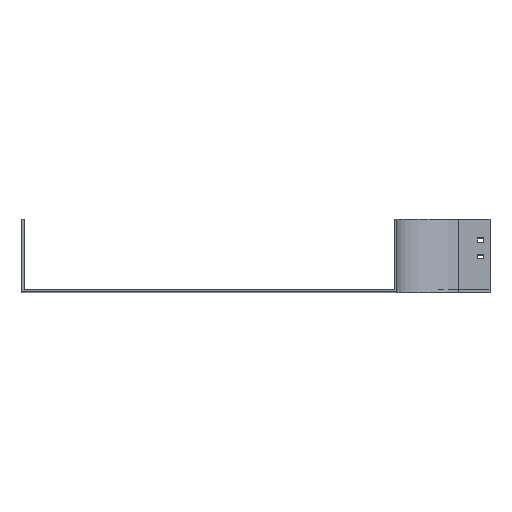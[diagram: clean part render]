
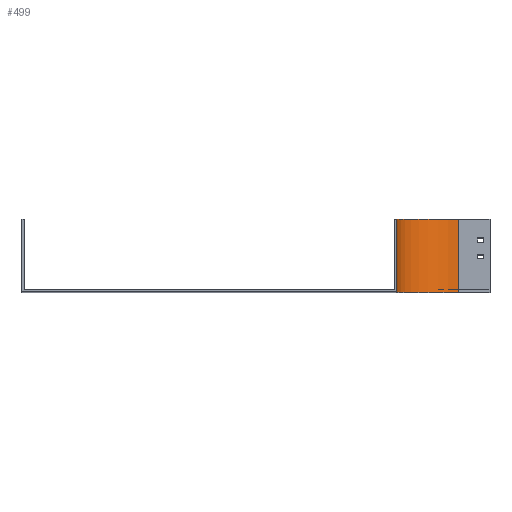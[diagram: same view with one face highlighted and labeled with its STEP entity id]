
A CAD part, top view. The second image highlights one B-rep face of the part: STEP entity #499.
In plain terms, the highlighted cylindrical face has radius 100 mm (diameter 200 mm), a partial arc.
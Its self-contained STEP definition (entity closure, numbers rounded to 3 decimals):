
#115 = CARTESIAN_POINT ( 'NONE',  ( 0., 117.5, 0. ) ) ;
#208 = DIRECTION ( 'NONE',  ( 0., 0., -1. ) ) ;
#313 = EDGE_LOOP ( 'NONE', ( #2393, #398, #786, #2388 ) ) ;
#373 = AXIS2_PLACEMENT_3D ( 'NONE', #547, #2650, #1606 ) ;
#398 = ORIENTED_EDGE ( 'NONE', *, *, #1973, .F. ) ;
#466 = EDGE_CURVE ( 'NONE', #1142, #1809, #508, .T. ) ;
#499 = ADVANCED_FACE ( 'NONE', ( #1187 ), #2030, .F. ) ;
#508 = CIRCLE ( 'NONE', #1963, 100. ) ;
#547 = CARTESIAN_POINT ( 'NONE',  ( 0., 0., 0. ) ) ;
#702 = VECTOR ( 'NONE', #2073, 1000. ) ;
#711 = EDGE_CURVE ( 'NONE', #2614, #1074, #1570, .T. ) ;
#786 = ORIENTED_EDGE ( 'NONE', *, *, #466, .F. ) ;
#852 = CARTESIAN_POINT ( 'NONE',  ( 0., 117.5, -100. ) ) ;
#983 = DIRECTION ( 'NONE',  ( 0., -1., 0. ) ) ;
#1074 = VERTEX_POINT ( 'NONE', #2696 ) ;
#1142 = VERTEX_POINT ( 'NONE', #1337 ) ;
#1187 = FACE_OUTER_BOUND ( 'NONE', #313, .T. ) ;
#1191 = LINE ( 'NONE', #1783, #1267 ) ;
#1267 = VECTOR ( 'NONE', #2214, 1000. ) ;
#1337 = CARTESIAN_POINT ( 'NONE',  ( -100., 117.5, 0. ) ) ;
#1570 = CIRCLE ( 'NONE', #373, 100. ) ;
#1606 = DIRECTION ( 'NONE',  ( 0., 0., -1. ) ) ;
#1783 = CARTESIAN_POINT ( 'NONE',  ( 0., 117.5, -100. ) ) ;
#1793 = DIRECTION ( 'NONE',  ( 0., 0., -1. ) ) ;
#1809 = VERTEX_POINT ( 'NONE', #852 ) ;
#1832 = DIRECTION ( 'NONE',  ( 0., -1., 0. ) ) ;
#1852 = LINE ( 'NONE', #2690, #702 ) ;
#1963 = AXIS2_PLACEMENT_3D ( 'NONE', #2687, #1832, #1793 ) ;
#1973 = EDGE_CURVE ( 'NONE', #1809, #1074, #1191, .T. ) ;
#2030 = CYLINDRICAL_SURFACE ( 'NONE', #2055, 100. ) ;
#2055 = AXIS2_PLACEMENT_3D ( 'NONE', #115, #983, #208 ) ;
#2073 = DIRECTION ( 'NONE',  ( 0., -1., 0. ) ) ;
#2177 = EDGE_CURVE ( 'NONE', #1142, #2614, #1852, .T. ) ;
#2214 = DIRECTION ( 'NONE',  ( 0., -1., 0. ) ) ;
#2388 = ORIENTED_EDGE ( 'NONE', *, *, #2177, .T. ) ;
#2393 = ORIENTED_EDGE ( 'NONE', *, *, #711, .T. ) ;
#2614 = VERTEX_POINT ( 'NONE', #2743 ) ;
#2650 = DIRECTION ( 'NONE',  ( 0., -1., 0. ) ) ;
#2687 = CARTESIAN_POINT ( 'NONE',  ( 0., 117.5, 0. ) ) ;
#2690 = CARTESIAN_POINT ( 'NONE',  ( -100., 117.5, 0. ) ) ;
#2696 = CARTESIAN_POINT ( 'NONE',  ( 0., 0., -100. ) ) ;
#2743 = CARTESIAN_POINT ( 'NONE',  ( -100., 0., 0. ) ) ;
